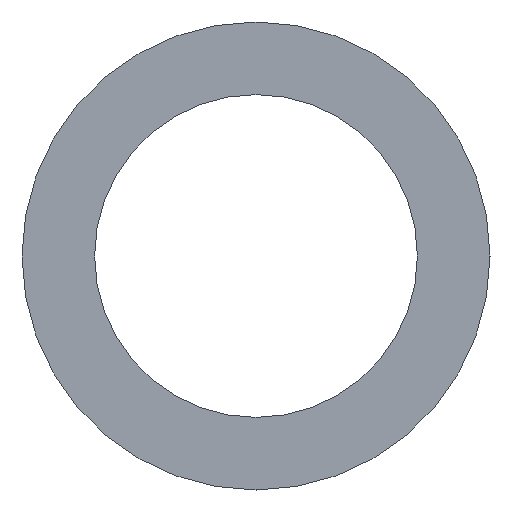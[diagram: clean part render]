
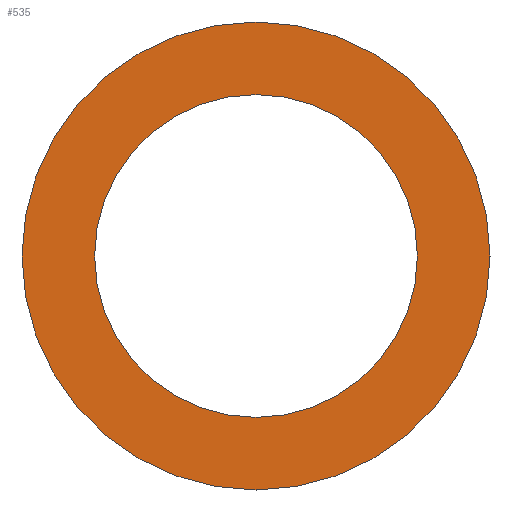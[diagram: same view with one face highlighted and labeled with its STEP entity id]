
A CAD part, front view. The second image highlights one B-rep face of the part: STEP entity #535.
In plain terms, the highlighted planar face has unit normal (0, -1, 0).
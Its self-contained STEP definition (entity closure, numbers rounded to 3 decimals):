
#35 = PLANE ( 'NONE',  #2165 ) ;
#135 = CARTESIAN_POINT ( 'NONE',  ( 0., -29., -72.5 ) ) ;
#140 = VERTEX_POINT ( 'NONE', #135 ) ;
#388 = CARTESIAN_POINT ( 'NONE',  ( 0., -29., 0. ) ) ;
#417 = VERTEX_POINT ( 'NONE', #2139 ) ;
#493 = VERTEX_POINT ( 'NONE', #3194 ) ;
#535 = ADVANCED_FACE ( 'NONE', ( #3920, #3092 ), #35, .F. ) ;
#757 = DIRECTION ( 'NONE',  ( 0., 0., -1. ) ) ;
#785 = CARTESIAN_POINT ( 'NONE',  ( 0., -29., 50. ) ) ;
#815 = CARTESIAN_POINT ( 'NONE',  ( 0., -29., 0. ) ) ;
#960 = CARTESIAN_POINT ( 'NONE',  ( 0., -29., 0. ) ) ;
#1012 = DIRECTION ( 'NONE',  ( 0., -1., 0. ) ) ;
#1223 = AXIS2_PLACEMENT_3D ( 'NONE', #960, #1012, #2262 ) ;
#1274 = ORIENTED_EDGE ( 'NONE', *, *, #1372, .T. ) ;
#1372 = EDGE_CURVE ( 'NONE', #140, #417, #1908, .T. ) ;
#1387 = EDGE_CURVE ( 'NONE', #2401, #493, #3485, .T. ) ;
#1395 = CARTESIAN_POINT ( 'NONE',  ( 0., -29., 0. ) ) ;
#1455 = CIRCLE ( 'NONE', #1223, 50. ) ;
#1588 = DIRECTION ( 'NONE',  ( 0., 0., 1. ) ) ;
#1637 = ORIENTED_EDGE ( 'NONE', *, *, #1387, .F. ) ;
#1723 = DIRECTION ( 'NONE',  ( 0., -1., 0. ) ) ;
#1908 = CIRCLE ( 'NONE', #2558, 72.5 ) ;
#2100 = CIRCLE ( 'NONE', #2537, 72.5 ) ;
#2139 = CARTESIAN_POINT ( 'NONE',  ( 0., -29., 72.5 ) ) ;
#2165 = AXIS2_PLACEMENT_3D ( 'NONE', #2222, #2830, #1588 ) ;
#2222 = CARTESIAN_POINT ( 'NONE',  ( 0., -29., 50. ) ) ;
#2262 = DIRECTION ( 'NONE',  ( 0., 0., -1. ) ) ;
#2271 = AXIS2_PLACEMENT_3D ( 'NONE', #815, #3672, #2707 ) ;
#2281 = EDGE_CURVE ( 'NONE', #417, #140, #2100, .T. ) ;
#2306 = ORIENTED_EDGE ( 'NONE', *, *, #3537, .F. ) ;
#2401 = VERTEX_POINT ( 'NONE', #785 ) ;
#2497 = EDGE_LOOP ( 'NONE', ( #2306, #1637 ) ) ;
#2537 = AXIS2_PLACEMENT_3D ( 'NONE', #388, #1723, #2921 ) ;
#2556 = ORIENTED_EDGE ( 'NONE', *, *, #2281, .T. ) ;
#2558 = AXIS2_PLACEMENT_3D ( 'NONE', #1395, #2650, #757 ) ;
#2650 = DIRECTION ( 'NONE',  ( 0., -1., 0. ) ) ;
#2707 = DIRECTION ( 'NONE',  ( 0., 0., -1. ) ) ;
#2830 = DIRECTION ( 'NONE',  ( 0., 1., 0. ) ) ;
#2921 = DIRECTION ( 'NONE',  ( 0., 0., -1. ) ) ;
#3092 = FACE_OUTER_BOUND ( 'NONE', #3939, .T. ) ;
#3194 = CARTESIAN_POINT ( 'NONE',  ( 0., -29., -50. ) ) ;
#3485 = CIRCLE ( 'NONE', #2271, 50. ) ;
#3537 = EDGE_CURVE ( 'NONE', #493, #2401, #1455, .T. ) ;
#3672 = DIRECTION ( 'NONE',  ( 0., -1., 0. ) ) ;
#3920 = FACE_BOUND ( 'NONE', #2497, .T. ) ;
#3939 = EDGE_LOOP ( 'NONE', ( #1274, #2556 ) ) ;
